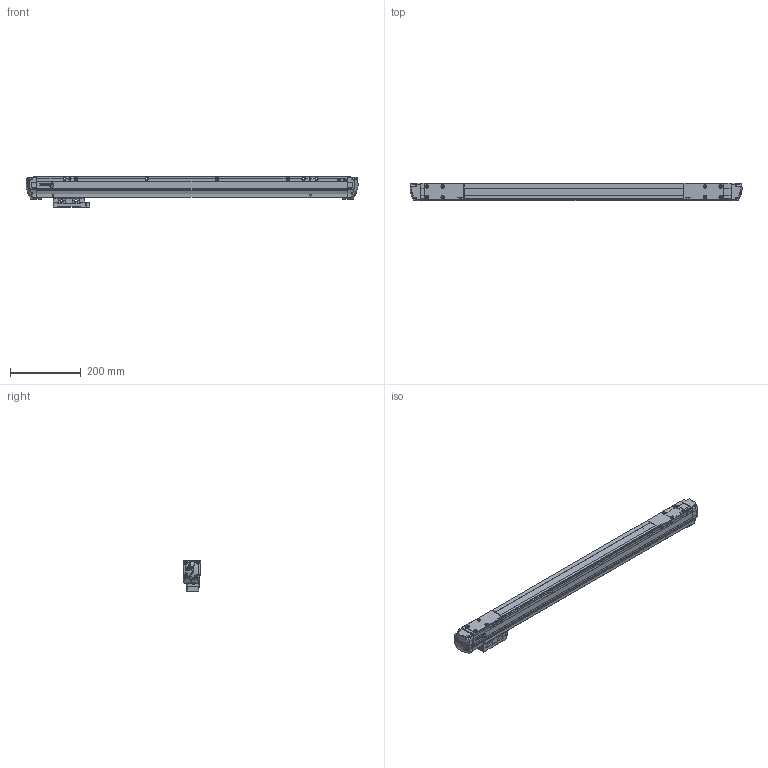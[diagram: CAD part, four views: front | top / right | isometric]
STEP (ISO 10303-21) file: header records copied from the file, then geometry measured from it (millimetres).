
FILE_DESCRIPTION(('Creo Elements/Direct Modeling STEP Export'),'2;1');
FILE_NAME('Li-6.stp','2017-01-11T10:01:54',(''),(''),'Creo Elements/Direct Modeling STEP processor for AP214 (Solid Model)','Creo Elements/Direct Modeling 18.1H 24-Oct-2015 (C) Parametric Technology GmbH','');
FILE_SCHEMA(('AUTOMOTIVE_DESIGN { 1 0 10303 214 1 1 1 1 }'));
Length unit declared in the file: millimetre
Products named in the file (8): CABEZA.1; CABEZA; Li-6_PERFIL; TAPA_DERECHA; TAPA_IZQUIERDA
Assembly tree (4 placements, depth 2):
  CABEZA
    CABEZA.1
  Li-6_PERFIL
    Li-6_PERFIL
  TAPA_DERECHA
    TAPA_DERECHA
  TAPA_IZQUIERDA
    TAPA_IZQUIERDA
Bounding box: 941.61 x 50 x 86.45 mm (x, y, z)
Volume: 2373898.3 mm3; surface area: 347578 mm2
Topology: 5 solids, 26 shells, 2713 faces, 7193 edges, 4630 vertices
Faces by surface type: plane 1054, cylinder 905, bspline 367, cone 250, torus 111, sphere 24, extrusion 2
Entity records: 126337 total; most frequent: CARTESIAN_POINT 54148, ORIENTED_EDGE 14334, DIRECTION 11331, EDGE_CURVE 7167, VERTEX_POINT 4628, AXIS2_PLACEMENT_3D 3993, VECTOR 3345, LINE 3343
